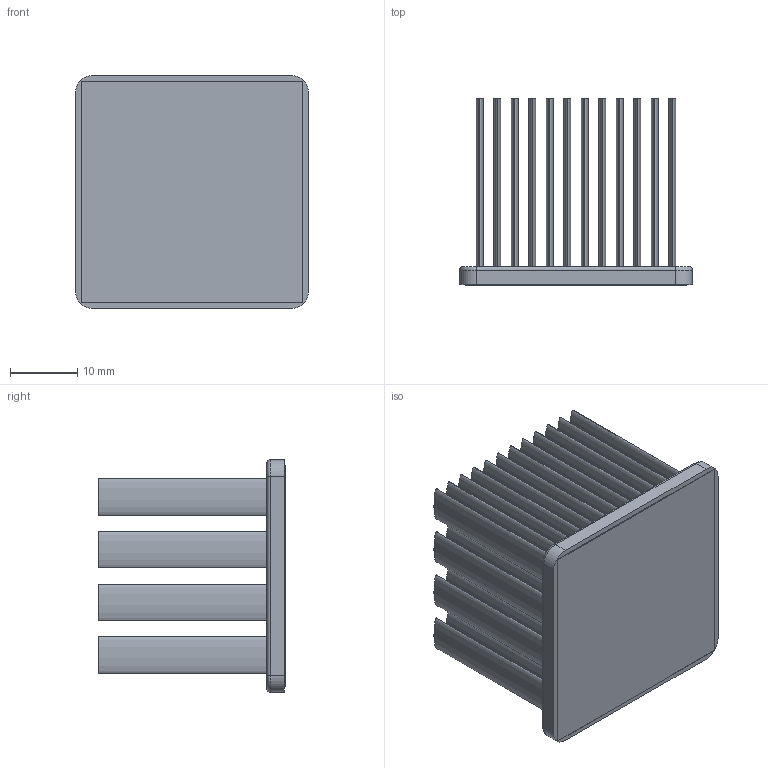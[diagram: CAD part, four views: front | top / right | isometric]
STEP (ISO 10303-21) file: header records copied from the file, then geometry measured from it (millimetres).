
FILE_DESCRIPTION (( 'STEP AP214' ), '1' );
FILE_NAME ('INM35001-28W-2.6.STEP', '2023-02-20T22:35:11', ( '' ), ( '' ), 'SwSTEP 2.0', 'SolidWorks 2020', '' );
FILE_SCHEMA (( 'AUTOMOTIVE_DESIGN' ));
Length unit declared in the file: inch
Products named in the file (1): INM35001-28W-2.6
Bounding box: 34.6 x 27.73 x 34.6 mm (x, y, z)
Volume: 8720.6 mm3; surface area: 18640.9 mm2
Topology: 2 solids, 2 shells, 168 faces, 340 edges, 224 vertices
Faces by surface type: bspline 96, plane 60, cylinder 8, torus 4
Entity records: 6823 total; most frequent: CARTESIAN_POINT 1981, ORIENTED_EDGE 680, EDGE_CURVE 340, DIRECTION 314, VERTEX_POINT 224, EDGE_LOOP 216, UNCERTAINTY_MEASURE_WITH_UNIT 172, LENGTH_MEASURE_WITH_UNIT 172
